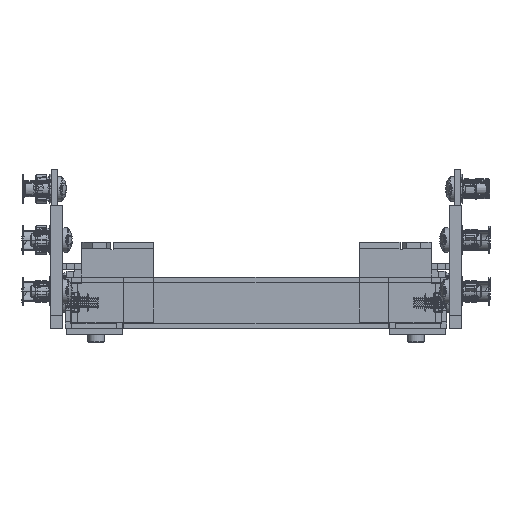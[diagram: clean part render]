
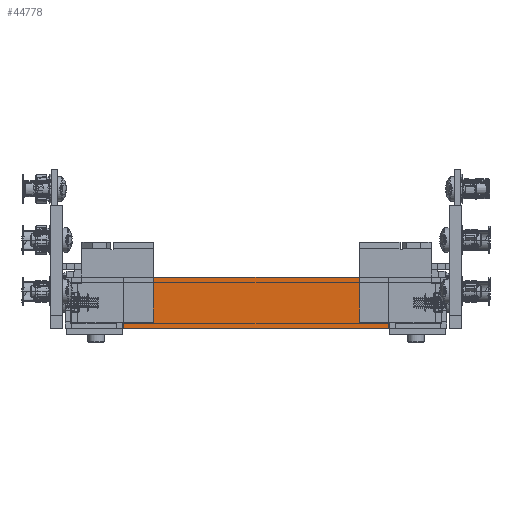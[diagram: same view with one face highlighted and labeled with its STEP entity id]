
A CAD part, front view. The second image highlights one B-rep face of the part: STEP entity #44778.
In plain terms, the highlighted planar face has unit normal (0, -1, 0) as drawn and (-1, 0, 0) by its records, which use the part's own axes.
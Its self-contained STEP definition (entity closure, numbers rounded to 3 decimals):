
#3084 = VECTOR ( 'NONE', #81608, 1000. ) ;
#5368 = ORIENTED_EDGE ( 'NONE', *, *, #95466, .F. ) ;
#5761 = VECTOR ( 'NONE', #12999, 1000. ) ;
#5910 = VERTEX_POINT ( 'NONE', #103564 ) ;
#7083 = DIRECTION ( 'NONE',  ( 0., 0., -1. ) ) ;
#9588 = LINE ( 'NONE', #66182, #52493 ) ;
#9948 = CARTESIAN_POINT ( 'NONE',  ( -1041.51, 64.5, 25. ) ) ;
#12999 = DIRECTION ( 'NONE',  ( 0., 0., 1. ) ) ;
#14557 = EDGE_CURVE ( 'NONE', #73117, #94947, #73114, .T. ) ;
#18027 = DIRECTION ( 'NONE',  ( 0., 0., 1. ) ) ;
#18512 = VECTOR ( 'NONE', #89972, 1000. ) ;
#20432 = EDGE_CURVE ( 'NONE', #21995, #57804, #88574, .T. ) ;
#21921 = VERTEX_POINT ( 'NONE', #80538 ) ;
#21995 = VERTEX_POINT ( 'NONE', #26485 ) ;
#23468 = CARTESIAN_POINT ( 'NONE',  ( -1041.51, 64.5, 2.5 ) ) ;
#23773 = CARTESIAN_POINT ( 'NONE',  ( -1041.51, 64.5, 3.1 ) ) ;
#26485 = CARTESIAN_POINT ( 'NONE',  ( -1041.51, 64.5, 21.9 ) ) ;
#26732 = LINE ( 'NONE', #57981, #98222 ) ;
#27592 = EDGE_LOOP ( 'NONE', ( #37469, #51120, #90146, #52382, #102495, #102026, #37379, #5368 ) ) ;
#30145 = EDGE_CURVE ( 'NONE', #21995, #5910, #30914, .T. ) ;
#30914 = LINE ( 'NONE', #45765, #5761 ) ;
#33825 = EDGE_CURVE ( 'NONE', #57804, #75674, #80432, .T. ) ;
#37379 = ORIENTED_EDGE ( 'NONE', *, *, #97810, .T. ) ;
#37469 = ORIENTED_EDGE ( 'NONE', *, *, #14557, .T. ) ;
#38278 = CARTESIAN_POINT ( 'NONE',  ( -1041.51, -64.5, 21.9 ) ) ;
#38571 = CARTESIAN_POINT ( 'NONE',  ( -1041.51, 64.5, 0. ) ) ;
#42297 = CARTESIAN_POINT ( 'NONE',  ( -1041.51, -64.5, 2.5 ) ) ;
#44778 = ADVANCED_FACE ( 'NONE', ( #76220 ), #68808, .F. ) ;
#45765 = CARTESIAN_POINT ( 'NONE',  ( -1041.51, 64.5, 2.5 ) ) ;
#50543 = VERTEX_POINT ( 'NONE', #63421 ) ;
#51120 = ORIENTED_EDGE ( 'NONE', *, *, #66285, .T. ) ;
#52382 = ORIENTED_EDGE ( 'NONE', *, *, #30145, .F. ) ;
#52493 = VECTOR ( 'NONE', #18027, 1000. ) ;
#57255 = CARTESIAN_POINT ( 'NONE',  ( -1041.51, -64.5, 2.5 ) ) ;
#57804 = VERTEX_POINT ( 'NONE', #78300 ) ;
#57981 = CARTESIAN_POINT ( 'NONE',  ( -1041.51, -90.5, 0. ) ) ;
#58202 = LINE ( 'NONE', #42297, #18512 ) ;
#61606 = VECTOR ( 'NONE', #91441, 1000. ) ;
#63421 = CARTESIAN_POINT ( 'NONE',  ( -1041.51, -64.5, 0. ) ) ;
#66182 = CARTESIAN_POINT ( 'NONE',  ( -1041.51, -64.5, 21.9 ) ) ;
#66285 = EDGE_CURVE ( 'NONE', #94947, #21921, #9588, .T. ) ;
#68808 = PLANE ( 'NONE',  #79270 ) ;
#71101 = CARTESIAN_POINT ( 'NONE',  ( -1041.51, -64.5, 3.1 ) ) ;
#73114 = LINE ( 'NONE', #57255, #3084 ) ;
#73117 = VERTEX_POINT ( 'NONE', #71101 ) ;
#73687 = EDGE_CURVE ( 'NONE', #5910, #21921, #98842, .T. ) ;
#75674 = VERTEX_POINT ( 'NONE', #38571 ) ;
#76220 = FACE_OUTER_BOUND ( 'NONE', #27592, .T. ) ;
#76469 = DIRECTION ( 'NONE',  ( 0., -1., 0. ) ) ;
#78300 = CARTESIAN_POINT ( 'NONE',  ( -1041.51, 64.5, 3.1 ) ) ;
#79270 = AXIS2_PLACEMENT_3D ( 'NONE', #101090, #93146, #87827 ) ;
#80432 = LINE ( 'NONE', #23773, #87097 ) ;
#80538 = CARTESIAN_POINT ( 'NONE',  ( -1041.51, -64.5, 25. ) ) ;
#81608 = DIRECTION ( 'NONE',  ( 0., 0., 1. ) ) ;
#87097 = VECTOR ( 'NONE', #95255, 1000. ) ;
#87827 = DIRECTION ( 'NONE',  ( 0., 0., -1. ) ) ;
#88574 = LINE ( 'NONE', #23468, #93371 ) ;
#89972 = DIRECTION ( 'NONE',  ( 0., 0., -1. ) ) ;
#90146 = ORIENTED_EDGE ( 'NONE', *, *, #73687, .F. ) ;
#91441 = DIRECTION ( 'NONE',  ( 0., -1., 0. ) ) ;
#93146 = DIRECTION ( 'NONE',  ( 1., 0., 0. ) ) ;
#93371 = VECTOR ( 'NONE', #7083, 1000. ) ;
#94947 = VERTEX_POINT ( 'NONE', #38278 ) ;
#95255 = DIRECTION ( 'NONE',  ( 0., 0., -1. ) ) ;
#95466 = EDGE_CURVE ( 'NONE', #73117, #50543, #58202, .T. ) ;
#97810 = EDGE_CURVE ( 'NONE', #75674, #50543, #26732, .T. ) ;
#98222 = VECTOR ( 'NONE', #76469, 1000. ) ;
#98842 = LINE ( 'NONE', #9948, #61606 ) ;
#101090 = CARTESIAN_POINT ( 'NONE',  ( -1041.51, 64.5, 2.5 ) ) ;
#102026 = ORIENTED_EDGE ( 'NONE', *, *, #33825, .T. ) ;
#102495 = ORIENTED_EDGE ( 'NONE', *, *, #20432, .T. ) ;
#103564 = CARTESIAN_POINT ( 'NONE',  ( -1041.51, 64.5, 25. ) ) ;
